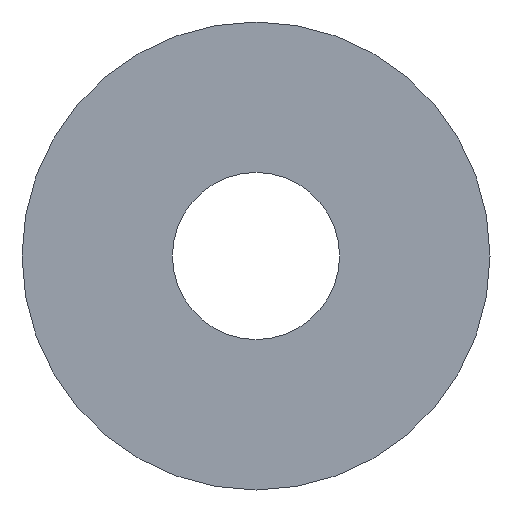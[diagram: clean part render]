
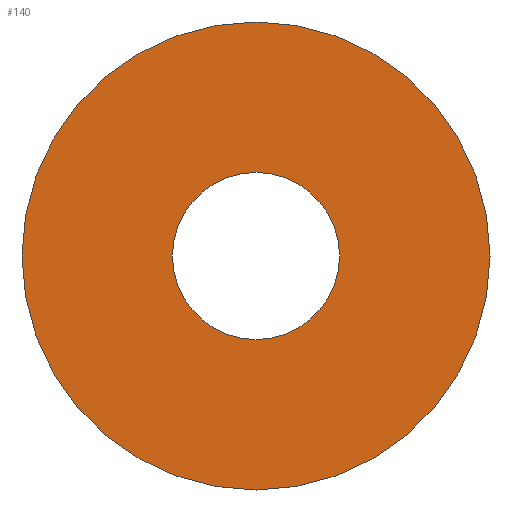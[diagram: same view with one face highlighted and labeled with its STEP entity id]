
A CAD part, left-side view. The second image highlights one B-rep face of the part: STEP entity #140.
In plain terms, the highlighted planar face has unit normal (-1, 0, 0).
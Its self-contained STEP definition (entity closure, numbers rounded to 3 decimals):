
#31 = CYLINDRICAL_SURFACE('',#32,28.);
#32 = AXIS2_PLACEMENT_3D('',#33,#34,#35);
#33 = CARTESIAN_POINT('',(353.,0.,390.));
#34 = DIRECTION('',(1.,0.,0.));
#35 = DIRECTION('',(-0.,0.,1.));
#56 = VERTEX_POINT('',#57);
#57 = CARTESIAN_POINT('',(353.,0.,418.));
#78 = EDGE_CURVE('',#56,#56,#79,.T.);
#79 = SURFACE_CURVE('',#80,(#85,#92),.PCURVE_S1.);
#80 = CIRCLE('',#81,28.);
#81 = AXIS2_PLACEMENT_3D('',#82,#83,#84);
#82 = CARTESIAN_POINT('',(353.,0.,390.));
#83 = DIRECTION('',(1.,0.,0.));
#84 = DIRECTION('',(-0.,0.,1.));
#85 = PCURVE('',#31,#86);
#86 = DEFINITIONAL_REPRESENTATION('',(#87),#91);
#87 = LINE('',#88,#89);
#88 = CARTESIAN_POINT('',(0.,0.));
#89 = VECTOR('',#90,1.);
#90 = DIRECTION('',(1.,0.));
#91 = ( GEOMETRIC_REPRESENTATION_CONTEXT(2) 
PARAMETRIC_REPRESENTATION_CONTEXT() REPRESENTATION_CONTEXT('2D SPACE',''
  ) );
#92 = PCURVE('',#93,#98);
#93 = PLANE('',#94);
#94 = AXIS2_PLACEMENT_3D('',#95,#96,#97);
#95 = CARTESIAN_POINT('',(353.,0.,390.));
#96 = DIRECTION('',(1.,0.,0.));
#97 = DIRECTION('',(-0.,0.,1.));
#98 = DEFINITIONAL_REPRESENTATION('',(#99),#103);
#99 = CIRCLE('',#100,28.);
#100 = AXIS2_PLACEMENT_2D('',#101,#102);
#101 = CARTESIAN_POINT('',(0.,0.));
#102 = DIRECTION('',(1.,0.));
#103 = ( GEOMETRIC_REPRESENTATION_CONTEXT(2) 
PARAMETRIC_REPRESENTATION_CONTEXT() REPRESENTATION_CONTEXT('2D SPACE',''
  ) );
#129 = CYLINDRICAL_SURFACE('',#130,10.);
#130 = AXIS2_PLACEMENT_3D('',#131,#132,#133);
#131 = CARTESIAN_POINT('',(352.,0.,390.));
#132 = DIRECTION('',(1.,0.,0.));
#133 = DIRECTION('',(-0.,0.,1.));
#140 = ADVANCED_FACE('',(#141,#144),#93,.F.);
#141 = FACE_BOUND('',#142,.F.);
#142 = EDGE_LOOP('',(#143));
#143 = ORIENTED_EDGE('',*,*,#78,.T.);
#144 = FACE_BOUND('',#145,.F.);
#145 = EDGE_LOOP('',(#146));
#146 = ORIENTED_EDGE('',*,*,#147,.F.);
#147 = EDGE_CURVE('',#148,#148,#150,.T.);
#148 = VERTEX_POINT('',#149);
#149 = CARTESIAN_POINT('',(353.,0.,400.));
#150 = SURFACE_CURVE('',#151,(#156,#163),.PCURVE_S1.);
#151 = CIRCLE('',#152,10.);
#152 = AXIS2_PLACEMENT_3D('',#153,#154,#155);
#153 = CARTESIAN_POINT('',(353.,0.,390.));
#154 = DIRECTION('',(1.,0.,0.));
#155 = DIRECTION('',(-0.,0.,1.));
#156 = PCURVE('',#93,#157);
#157 = DEFINITIONAL_REPRESENTATION('',(#158),#162);
#158 = CIRCLE('',#159,10.);
#159 = AXIS2_PLACEMENT_2D('',#160,#161);
#160 = CARTESIAN_POINT('',(0.,0.));
#161 = DIRECTION('',(1.,0.));
#162 = ( GEOMETRIC_REPRESENTATION_CONTEXT(2) 
PARAMETRIC_REPRESENTATION_CONTEXT() REPRESENTATION_CONTEXT('2D SPACE',''
  ) );
#163 = PCURVE('',#129,#164);
#164 = DEFINITIONAL_REPRESENTATION('',(#165),#169);
#165 = LINE('',#166,#167);
#166 = CARTESIAN_POINT('',(0.,1.));
#167 = VECTOR('',#168,1.);
#168 = DIRECTION('',(1.,0.));
#169 = ( GEOMETRIC_REPRESENTATION_CONTEXT(2) 
PARAMETRIC_REPRESENTATION_CONTEXT() REPRESENTATION_CONTEXT('2D SPACE',''
  ) );
